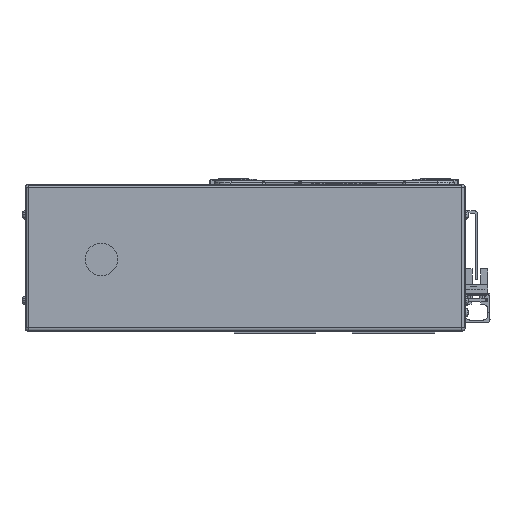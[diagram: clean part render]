
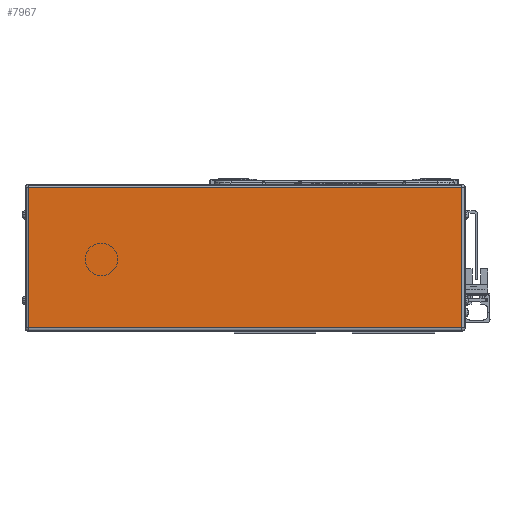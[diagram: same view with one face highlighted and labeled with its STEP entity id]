
A CAD part, left-side view. The second image highlights one B-rep face of the part: STEP entity #7967.
In plain terms, the highlighted planar face has unit normal (-1, 0, 0).
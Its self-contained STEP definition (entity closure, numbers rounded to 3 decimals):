
#7967=ADVANCED_FACE('',(#16551),#16552,.F.);
#16551=FACE_OUTER_BOUND('',#26899,.T.);
#16552=PLANE('',#26900);
#26899=EDGE_LOOP('',(#49762,#49763,#49764,#49765));
#26900=AXIS2_PLACEMENT_3D('',#49766,#49767,#49768);
#49762=ORIENTED_EDGE('',*,*,#64051,.T.);
#49763=ORIENTED_EDGE('',*,*,#57937,.T.);
#49764=ORIENTED_EDGE('',*,*,#55984,.T.);
#49765=ORIENTED_EDGE('',*,*,#60361,.T.);
#49766=CARTESIAN_POINT('',(-45.,180.5,0.));
#49767=DIRECTION('',(1.0,0.,0.));
#49768=DIRECTION('',(0.,0.,1.0));
#55984=EDGE_CURVE('',#66674,#66672,#66675,.T.);
#57937=EDGE_CURVE('',#70024,#66674,#70025,.T.);
#60361=EDGE_CURVE('',#66672,#73915,#73917,.T.);
#64051=EDGE_CURVE('',#73915,#70024,#78836,.T.);
#66672=VERTEX_POINT('',#82042);
#66674=VERTEX_POINT('',#82044);
#66675=LINE('',#82045,#82046);
#70024=VERTEX_POINT('',#87456);
#70025=LINE('',#87457,#87458);
#73915=VERTEX_POINT('',#93479);
#73917=LINE('',#93481,#93482);
#78836=LINE('',#100255,#100256);
#82042=CARTESIAN_POINT('',(-45.,-74.5,41.));
#82044=CARTESIAN_POINT('',(-45.,-74.5,-41.));
#82045=CARTESIAN_POINT('',(-45.,-74.5,0.));
#82046=VECTOR('',#103005,10.0);
#87456=CARTESIAN_POINT('',(-45.,178.5,-41.));
#87457=CARTESIAN_POINT('',(-45.,180.5,-41.));
#87458=VECTOR('',#105697,10.0);
#93479=CARTESIAN_POINT('',(-45.,178.5,41.));
#93481=CARTESIAN_POINT('',(-45.,180.5,41.));
#93482=VECTOR('',#109154,10.0);
#100255=CARTESIAN_POINT('',(-45.,178.5,0.));
#100256=VECTOR('',#113582,10.0);
#103005=DIRECTION('',(0.,0.,1.0));
#105697=DIRECTION('',(0.,-1.0,0.));
#109154=DIRECTION('',(0.,1.0,0.));
#113582=DIRECTION('',(0.,0.,-1.0));
